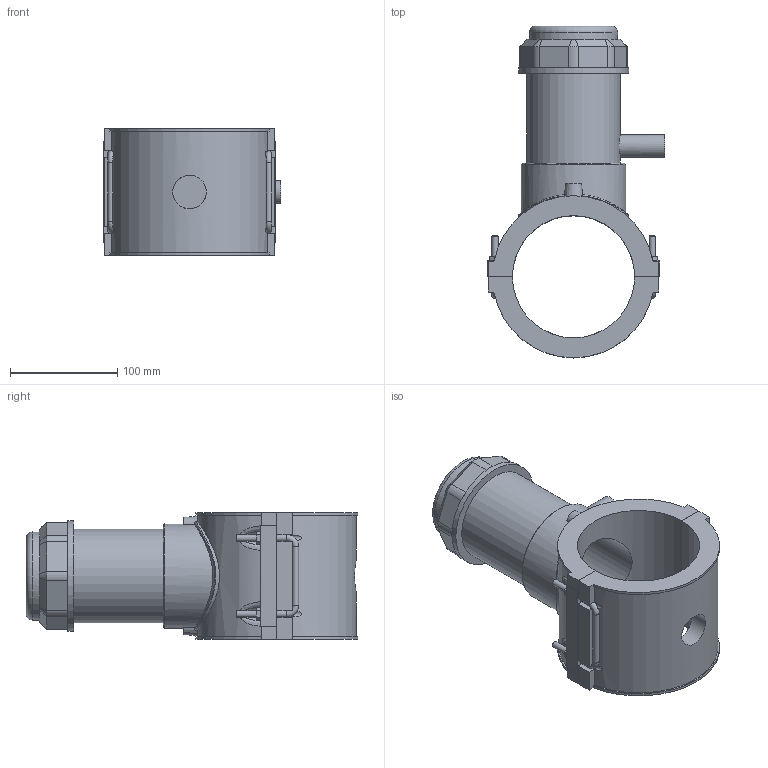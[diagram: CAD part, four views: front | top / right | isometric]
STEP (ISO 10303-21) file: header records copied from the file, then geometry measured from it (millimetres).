
FILE_DESCRIPTION(/* description */ ('PLASSON TAPPING SADDLE 4''''IPS x 1 1/2''''IPS'),/* implementation_level */ '2;1');
FILE_NAME(/* name */ 'C:\Dropbox\KIMPROJECTS-Inventor 2019\99-16-3568-Processing Inch\ASTM ElectroFusion 2021\5963B\5963BB03040005.ipt.stp',/* time_stamp */ '2021-08-30T09:55:17+03:00',/* author */ ('KIM'),/* organization */ (''),/* preprocessor_version */ 'ST-DEVELOPER v17.2',/* originating_system */ 'Autodesk Inventor 2019',/* authorisation */ '');
FILE_SCHEMA (('AUTOMOTIVE_DESIGN { 1 0 10303 214 3 1 1 }'));
Length unit declared in the file: millimetre
Products named in the file (1): 5963BB03040005
Bounding box: 165.59 x 309.74 x 118.11 mm (x, y, z)
Volume: 1393921.3 mm3; surface area: 221015.2 mm2
Topology: 1 solids, 1 shells, 216 faces, 587 edges, 384 vertices
Faces by surface type: plane 126, cylinder 60, cone 15, torus 9, bspline 6
Full cylindrical faces by diameter (mm): 6 x7, 16.96 x1, 21.2 x1, 31.36 x1, 71.883 x1, 82.152 x1, 87.287 x1, 97.555 x1, 102.69 x1
Entity records: 8586 total; most frequent: CARTESIAN_POINT 3048, ORIENTED_EDGE 1196, DIRECTION 1093, EDGE_CURVE 598, VERTEX_POINT 384, AXIS2_PLACEMENT_3D 377, LINE 339, VECTOR 339
